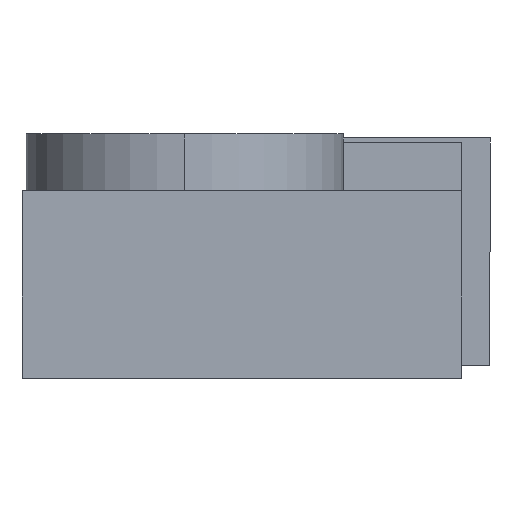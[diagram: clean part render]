
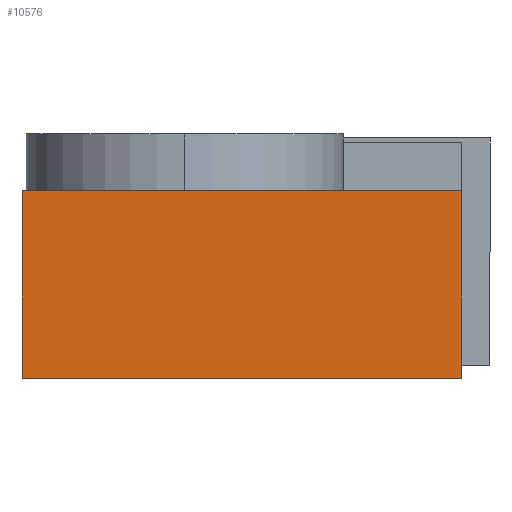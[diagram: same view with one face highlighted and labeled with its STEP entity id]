
A CAD part, left-side view. The second image highlights one B-rep face of the part: STEP entity #10576.
In plain terms, the highlighted planar face has unit normal (-1, 0, 0).
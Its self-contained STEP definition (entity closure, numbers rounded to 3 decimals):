
#323 = CARTESIAN_POINT ( 'NONE',  ( -20., -27., 0. ) ) ;
#1362 = LINE ( 'NONE', #5495, #5118 ) ;
#1479 = DIRECTION ( 'NONE',  ( 0., 0., -1. ) ) ;
#1585 = CARTESIAN_POINT ( 'NONE',  ( -20., 0., 0. ) ) ;
#2166 = VERTEX_POINT ( 'NONE', #11733 ) ;
#2179 = CARTESIAN_POINT ( 'NONE',  ( -20., 27., 23. ) ) ;
#2372 = DIRECTION ( 'NONE',  ( 0., 0., 1. ) ) ;
#2702 = AXIS2_PLACEMENT_3D ( 'NONE', #2179, #7682, #9601 ) ;
#3219 = VECTOR ( 'NONE', #2372, 1000. ) ;
#3294 = ORIENTED_EDGE ( 'NONE', *, *, #11834, .F. ) ;
#4061 = LINE ( 'NONE', #1585, #9755 ) ;
#4207 = EDGE_CURVE ( 'NONE', #2166, #10593, #4061, .T. ) ;
#4535 = CARTESIAN_POINT ( 'NONE',  ( -20., 27., 23. ) ) ;
#5000 = CARTESIAN_POINT ( 'NONE',  ( -20., -27., 23. ) ) ;
#5118 = VECTOR ( 'NONE', #8364, 1000. ) ;
#5165 = ORIENTED_EDGE ( 'NONE', *, *, #11645, .T. ) ;
#5247 = LINE ( 'NONE', #10787, #6267 ) ;
#5495 = CARTESIAN_POINT ( 'NONE',  ( -20., 0., 23. ) ) ;
#5987 = ORIENTED_EDGE ( 'NONE', *, *, #8770, .T. ) ;
#6267 = VECTOR ( 'NONE', #1479, 1000. ) ;
#6974 = FACE_OUTER_BOUND ( 'NONE', #9154, .T. ) ;
#7682 = DIRECTION ( 'NONE',  ( 1., 0., 0. ) ) ;
#7806 = VERTEX_POINT ( 'NONE', #8409 ) ;
#8364 = DIRECTION ( 'NONE',  ( 0., -1., 0. ) ) ;
#8409 = CARTESIAN_POINT ( 'NONE',  ( -20., -27., 23. ) ) ;
#8654 = PLANE ( 'NONE',  #2702 ) ;
#8770 = EDGE_CURVE ( 'NONE', #11722, #2166, #5247, .T. ) ;
#8974 = DIRECTION ( 'NONE',  ( 0., -1., 0. ) ) ;
#9154 = EDGE_LOOP ( 'NONE', ( #5165, #3294, #5987, #9353 ) ) ;
#9353 = ORIENTED_EDGE ( 'NONE', *, *, #4207, .T. ) ;
#9481 = LINE ( 'NONE', #5000, #3219 ) ;
#9601 = DIRECTION ( 'NONE',  ( 0., 1., 0. ) ) ;
#9755 = VECTOR ( 'NONE', #8974, 1000. ) ;
#10576 = ADVANCED_FACE ( 'NONE', ( #6974 ), #8654, .F. ) ;
#10593 = VERTEX_POINT ( 'NONE', #323 ) ;
#10787 = CARTESIAN_POINT ( 'NONE',  ( -20., 27., 23. ) ) ;
#11645 = EDGE_CURVE ( 'NONE', #10593, #7806, #9481, .T. ) ;
#11722 = VERTEX_POINT ( 'NONE', #4535 ) ;
#11733 = CARTESIAN_POINT ( 'NONE',  ( -20., 27., 0. ) ) ;
#11834 = EDGE_CURVE ( 'NONE', #11722, #7806, #1362, .T. ) ;
